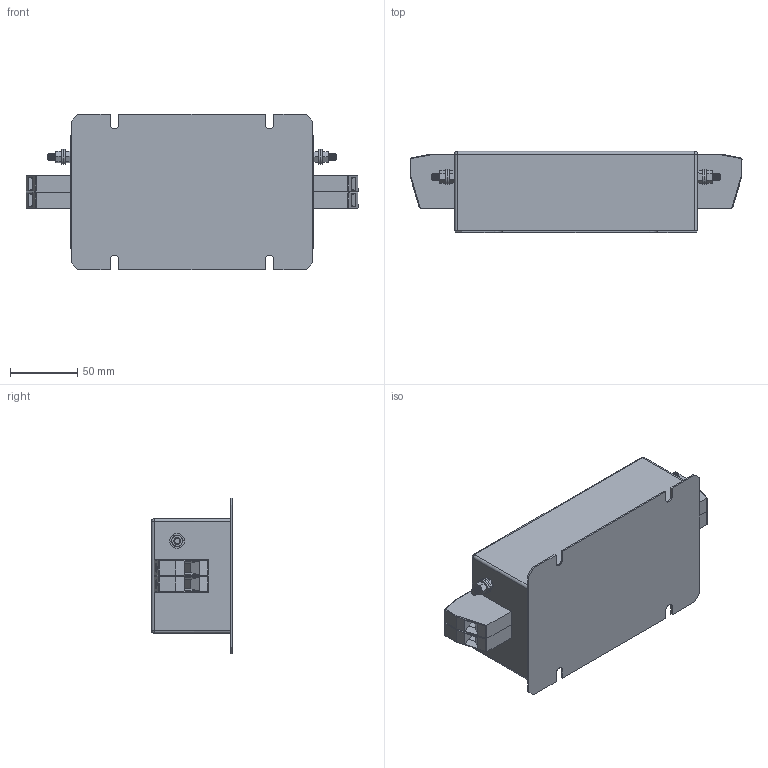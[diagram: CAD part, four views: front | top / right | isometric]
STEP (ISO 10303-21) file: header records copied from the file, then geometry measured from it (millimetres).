
FILE_DESCRIPTION (( 'STEP AP203' ), '1' );
FILE_NAME ('NF-55-1ph-FSA.STEP', '2024-09-12T13:40:59', ( '' ), ( '' ), 'SwSTEP 2.0', 'SolidWorks 2017', '' );
FILE_SCHEMA (( 'CONFIG_CONTROL_DESIGN' ));
Length unit declared in the file: millimetre
Products named in the file (7): M5x20 Earth post; hex screw_am_B18.6.7M - M5 x 0.8 x 13 Indented HHMS --13S; NF-1ph-55-FSA; HDFK-16; flat washer narrow_am_B18.22M - Plain washer, 5 mm, narrow; FNJ-1S; hex nut style 1_am_B18.2.4.1M - Hex nut, Style 1,  M5 x 0.8 --D-N
Assembly tree (11 placements, depth 3):
  NF-1ph-55-FSA
    FNJ-1S
    HDFK-16  x4
    M5x20 Earth post  x2
      flat washer narrow_am_B18.22M - Plain washer, 5 mm, narrow
      hex nut style 1_am_B18.2.4.1M - Hex nut, Style 1,  M5 x 0.8 --D-N
      hex screw_am_B18.6.7M - M5 x 0.8 x 13 Indented HHMS --13S
Bounding box: 246.01 x 60 x 115 mm (x, y, z)
Volume: 972394.3 mm3; surface area: 103146.6 mm2
Topology: 13 solids, 13 shells, 658 faces, 1560 edges, 952 vertices
Faces by surface type: plane 322, cone 192, cylinder 140, sphere 4
Entity records: 9113 total; most frequent: CARTESIAN_POINT 1541, DIRECTION 1498, ORIENTED_EDGE 1352, EDGE_CURVE 676, AXIS2_PLACEMENT_3D 565, VERTEX_POINT 416, VECTOR 368, LINE 368
